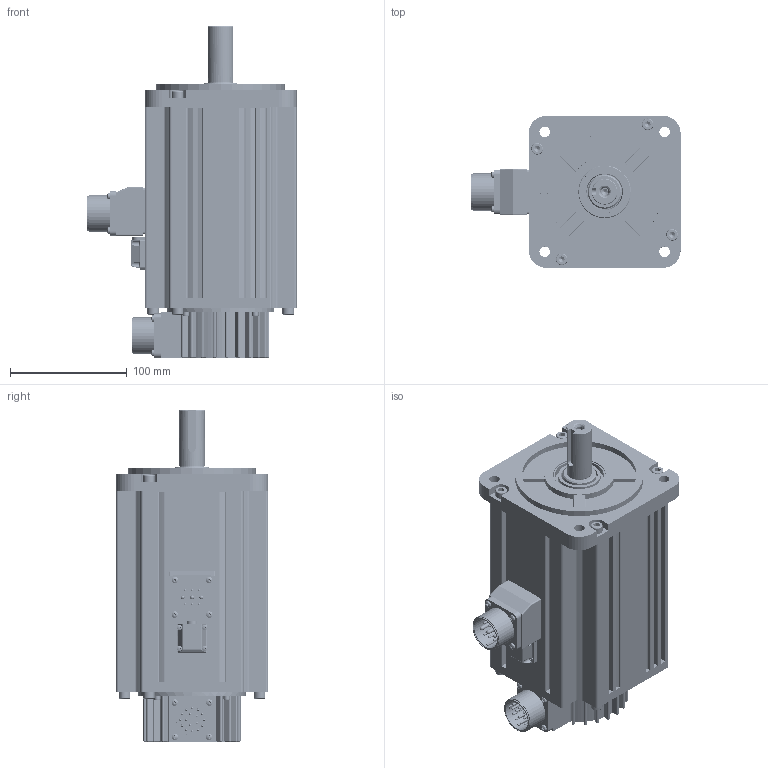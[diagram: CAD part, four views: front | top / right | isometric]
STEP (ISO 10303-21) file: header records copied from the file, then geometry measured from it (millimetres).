
FILE_DESCRIPTION((''),'2;1');
FILE_NAME('M-18E4K3A0_ASM','2019-06-13T',('zhouqs2'),(''),'CREO PARAMETRIC BY PTC INC, 2015480','CREO PARAMETRIC BY PTC INC, 2015480','');
FILE_SCHEMA(('CONFIG_CONTROL_DESIGN'));
Products named in the file (24): 80D2003201; 80Q0003401; 80S2000601; ASM0001_ASM; 80D5006001; 80D2003101; 80D2000901; 80G3000501; MJ01-8033; MJ01-8041; PRT0013; 80T5001501_ASM; 80G6000101; 80G3000201; PRT0012; MJ01-8042; 80S6000401; 001_ASM; MJ01-8038; 80S6002801; 80S5000101; MJ01-8035; ASM0002_ASM; M-18E4K3A0_ASM
Assembly tree (42 placements, depth 3):
  M-18E4K3A0_ASM
    ASM0001_ASM
      80D2003201
      80Q0003401
      80S2000601
    80D5006001
    80D2003101
    80T5001501_ASM
      80D2000901
      80G3000501
      MJ01-8033  x4
      MJ01-8041  x4
      PRT0013
    001_ASM
      80G6000101
      80G3000201
      PRT0012
      MJ01-8042  x4
      80S6000401
    MJ01-8038  x8
    ASM0002_ASM
      80S6002801
      80S5000101
      MJ01-8035  x4
Bounding box: 179 x 130 x 284.05 mm (x, y, z)
Volume: 697821.8 mm3; surface area: 385296.5 mm2
Topology: 37 solids, 71 shells, 6012 faces, 13265 edges, 7328 vertices
Faces by surface type: cone 2743, cylinder 2245, plane 872, sphere 126, torus 26
Entity records: 70473 total; most frequent: CARTESIAN_POINT 13590, DIRECTION 12846, ORIENTED_EDGE 11118, EDGE_CURVE 5617, AXIS2_PLACEMENT_3D 5019, VERTEX_POINT 3395, VECTOR 2808, LINE 2808
